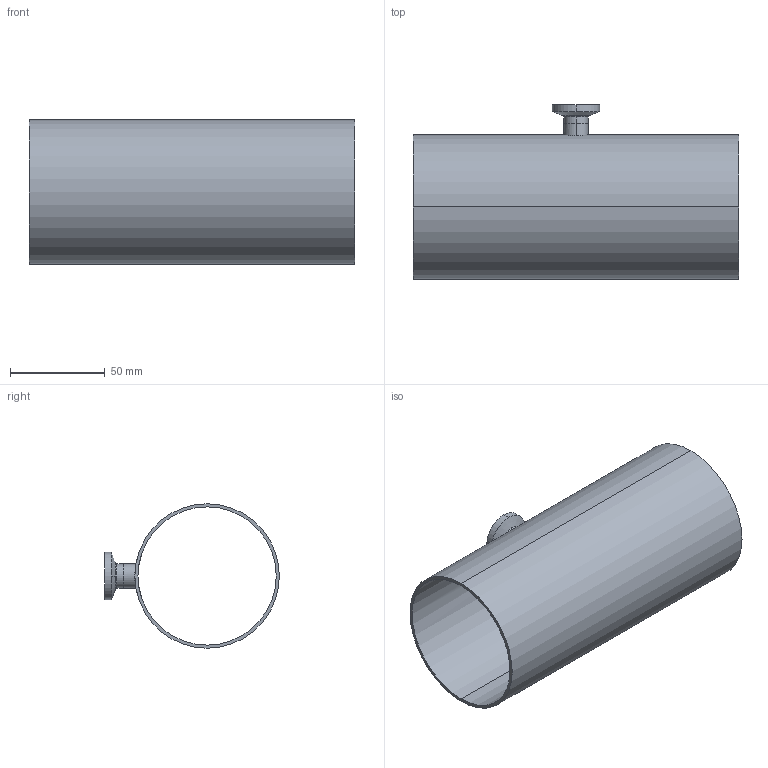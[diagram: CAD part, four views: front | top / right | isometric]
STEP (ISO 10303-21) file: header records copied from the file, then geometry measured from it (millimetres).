
FILE_DESCRIPTION (( 'STEP AP214' ), '1' );
FILE_NAME ('TE7RWWCS6L3.0x.5-...STEP', '2016-05-23T12:14:20', ( 'eran' ), ( '' ), 'SwSTEP 2.0', 'SolidWorks 2016', '' );
FILE_SCHEMA (( 'AUTOMOTIVE_DESIGN' ));
Length unit declared in the file: millimetre
Products named in the file (1): TE7RWWCS6L3.0x.5-..
Bounding box: 171.4 x 92.1 x 76.2 mm (x, y, z)
Volume: 68360.3 mm3; surface area: 83117 mm2
Topology: 2 solids, 2 shells, 34 faces, 76 edges, 48 vertices
Faces by surface type: cylinder 16, bspline 8, plane 6, cone 4
Entity records: 1249 total; most frequent: CARTESIAN_POINT 441, DIRECTION 170, ORIENTED_EDGE 152, EDGE_CURVE 76, AXIS2_PLACEMENT_3D 75, VERTEX_POINT 48, CIRCLE 48, EDGE_LOOP 42
